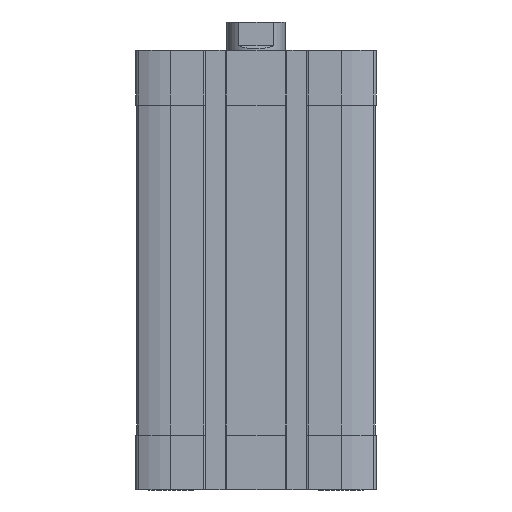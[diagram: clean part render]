
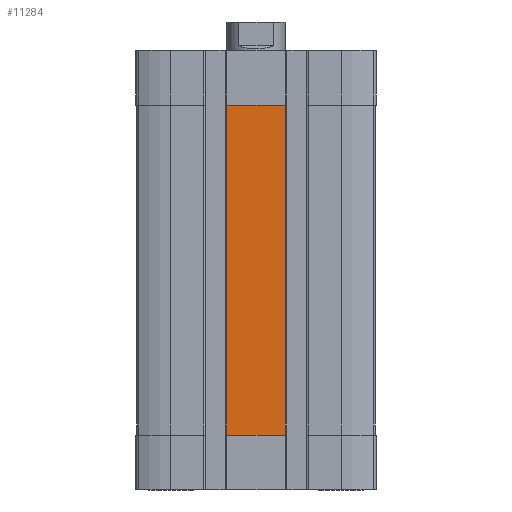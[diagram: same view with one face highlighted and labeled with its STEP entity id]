
A CAD part, front view. The second image highlights one B-rep face of the part: STEP entity #11284.
In plain terms, the highlighted planar face has unit normal (0, -1, 0).
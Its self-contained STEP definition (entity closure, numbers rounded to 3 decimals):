
#381 = AXIS2_PLACEMENT_3D ( 'NONE', #4367, #2034, #10332 ) ;
#947 = VECTOR ( 'NONE', #13431, 1000. ) ;
#1110 = EDGE_CURVE ( 'NONE', #6027, #4236, #10410, .T. ) ;
#2000 = CARTESIAN_POINT ( 'NONE',  ( 8., -32.5, -105. ) ) ;
#2034 = DIRECTION ( 'NONE',  ( 0., -1., 0. ) ) ;
#2463 = CARTESIAN_POINT ( 'NONE',  ( -8., -32.5, -105. ) ) ;
#2563 = CARTESIAN_POINT ( 'NONE',  ( -8., -32.5, -105. ) ) ;
#3191 = VECTOR ( 'NONE', #9661, 1000. ) ;
#3208 = DIRECTION ( 'NONE',  ( 0., 0., 1. ) ) ;
#3544 = CARTESIAN_POINT ( 'NONE',  ( -8., -32.5, -105. ) ) ;
#3654 = VECTOR ( 'NONE', #3208, 1000. ) ;
#3774 = VECTOR ( 'NONE', #11525, 1000. ) ;
#4236 = VERTEX_POINT ( 'NONE', #6758 ) ;
#4367 = CARTESIAN_POINT ( 'NONE',  ( -8., -32.5, -105. ) ) ;
#4392 = LINE ( 'NONE', #2000, #3654 ) ;
#4704 = ORIENTED_EDGE ( 'NONE', *, *, #1110, .T. ) ;
#5012 = VERTEX_POINT ( 'NONE', #11113 ) ;
#6027 = VERTEX_POINT ( 'NONE', #3544 ) ;
#6111 = EDGE_CURVE ( 'NONE', #5012, #6027, #6329, .T. ) ;
#6329 = LINE ( 'NONE', #2563, #3191 ) ;
#6588 = FACE_OUTER_BOUND ( 'NONE', #13862, .T. ) ;
#6758 = CARTESIAN_POINT ( 'NONE',  ( 8., -32.5, -105. ) ) ;
#6773 = PLANE ( 'NONE',  #381 ) ;
#8460 = CARTESIAN_POINT ( 'NONE',  ( 8., -32.5, -15. ) ) ;
#8710 = EDGE_CURVE ( 'NONE', #4236, #13212, #4392, .T. ) ;
#9661 = DIRECTION ( 'NONE',  ( 0., 0., -1. ) ) ;
#9747 = ORIENTED_EDGE ( 'NONE', *, *, #8710, .T. ) ;
#10332 = DIRECTION ( 'NONE',  ( 0., 0., -1. ) ) ;
#10410 = LINE ( 'NONE', #2463, #947 ) ;
#10838 = ORIENTED_EDGE ( 'NONE', *, *, #11297, .T. ) ;
#11113 = CARTESIAN_POINT ( 'NONE',  ( -8., -32.5, -15. ) ) ;
#11284 = ADVANCED_FACE ( 'NONE', ( #6588 ), #6773, .T. ) ;
#11297 = EDGE_CURVE ( 'NONE', #13212, #5012, #12842, .T. ) ;
#11525 = DIRECTION ( 'NONE',  ( -1., 0., 0. ) ) ;
#12842 = LINE ( 'NONE', #13824, #3774 ) ;
#13083 = ORIENTED_EDGE ( 'NONE', *, *, #6111, .T. ) ;
#13212 = VERTEX_POINT ( 'NONE', #8460 ) ;
#13431 = DIRECTION ( 'NONE',  ( 1., 0., 0. ) ) ;
#13824 = CARTESIAN_POINT ( 'NONE',  ( 0., -32.5, -15. ) ) ;
#13862 = EDGE_LOOP ( 'NONE', ( #4704, #9747, #10838, #13083 ) ) ;
